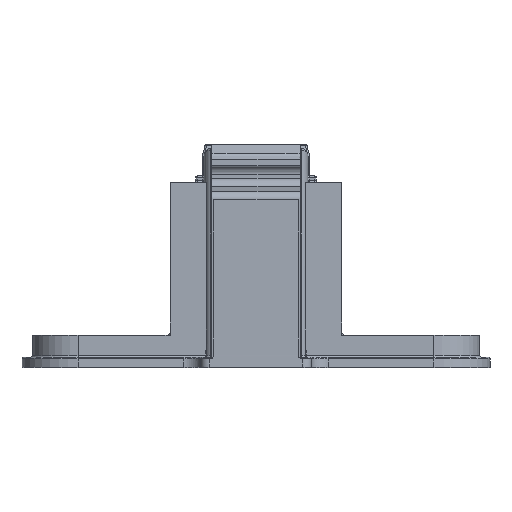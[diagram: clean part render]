
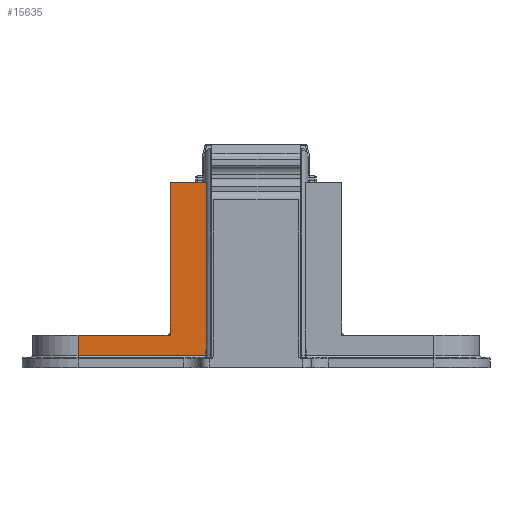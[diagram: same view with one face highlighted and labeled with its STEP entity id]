
A CAD part, top view. The second image highlights one B-rep face of the part: STEP entity #15635.
In plain terms, the highlighted planar face has unit normal (0, 0, 1).
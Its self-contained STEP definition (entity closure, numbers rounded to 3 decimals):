
#116 = CARTESIAN_POINT ( 'NONE',  ( -10.118, 21.8, 39.713 ) ) ;
#413 = FACE_OUTER_BOUND ( 'NONE', #2894, .T. ) ;
#494 = CARTESIAN_POINT ( 'NONE',  ( -5.858, 3.853, 39.714 ) ) ;
#951 = DIRECTION ( 'NONE',  ( 1., 0., 0. ) ) ;
#1085 = VERTEX_POINT ( 'NONE', #1992 ) ;
#1300 = LINE ( 'NONE', #13041, #19187 ) ;
#1319 = ORIENTED_EDGE ( 'NONE', *, *, #13231, .F. ) ;
#1377 = VECTOR ( 'NONE', #10315, 1000. ) ;
#1525 = DIRECTION ( 'NONE',  ( 1., 0., 0. ) ) ;
#1898 = DIRECTION ( 'NONE',  ( 0., -1., 0. ) ) ;
#1992 = CARTESIAN_POINT ( 'NONE',  ( -5.96, 1.393, 39.713 ) ) ;
#2894 = EDGE_LOOP ( 'NONE', ( #1319, #15292, #12294, #16324, #14725, #19077, #14376, #6193 ) ) ;
#3090 = CARTESIAN_POINT ( 'NONE',  ( -5.855, 1.393, 39.713 ) ) ;
#3411 = CARTESIAN_POINT ( 'NONE',  ( -5.859, 3.353, 39.714 ) ) ;
#3502 = CARTESIAN_POINT ( 'NONE',  ( -5.865, 2.823, 39.713 ) ) ;
#4205 = LINE ( 'NONE', #15463, #10226 ) ;
#4215 = AXIS2_PLACEMENT_3D ( 'NONE', #15285, #16920, #12584 ) ;
#4584 = CARTESIAN_POINT ( 'NONE',  ( -5.96, 1.393, 39.713 ) ) ;
#4682 = CARTESIAN_POINT ( 'NONE',  ( -5.876, 2.258, 39.713 ) ) ;
#4960 = CARTESIAN_POINT ( 'NONE',  ( -5.864, 2.951, 39.713 ) ) ;
#5038 = LINE ( 'NONE', #14346, #9033 ) ;
#5494 = EDGE_CURVE ( 'NONE', #5971, #17227, #15306, .T. ) ;
#5805 = VERTEX_POINT ( 'NONE', #116 ) ;
#5823 = EDGE_CURVE ( 'NONE', #10234, #17916, #4205, .T. ) ;
#5971 = VERTEX_POINT ( 'NONE', #6910 ) ;
#6026 = CARTESIAN_POINT ( 'NONE',  ( -5.901, 1.64, 39.713 ) ) ;
#6133 = CARTESIAN_POINT ( 'NONE',  ( -5.865, 2.855, 39.713 ) ) ;
#6193 = ORIENTED_EDGE ( 'NONE', *, *, #13232, .F. ) ;
#6324 = CARTESIAN_POINT ( 'NONE',  ( -5.858, 3.733, 39.715 ) ) ;
#6411 = EDGE_CURVE ( 'NONE', #17916, #10993, #5038, .T. ) ;
#6432 = CARTESIAN_POINT ( 'NONE',  ( -5.861, 3.171, 39.714 ) ) ;
#6910 = CARTESIAN_POINT ( 'NONE',  ( -5.859, 21.8, 39.713 ) ) ;
#7201 = CARTESIAN_POINT ( 'NONE',  ( -5.859, 4.915, 39.713 ) ) ;
#7246 = CARTESIAN_POINT ( 'NONE',  ( -10.118, 3.8, 39.713 ) ) ;
#7610 = CARTESIAN_POINT ( 'NONE',  ( -5.859, 3.46, 39.714 ) ) ;
#7652 = CARTESIAN_POINT ( 'NONE',  ( -5.859, 24., 39.713 ) ) ;
#7809 = CARTESIAN_POINT ( 'NONE',  ( -5.859, 3.913, 39.713 ) ) ;
#7917 = PLANE ( 'NONE',  #4215 ) ;
#8464 = CARTESIAN_POINT ( 'NONE',  ( -10.118, 21.8, 39.713 ) ) ;
#8675 = VECTOR ( 'NONE', #1898, 1000. ) ;
#8905 = VECTOR ( 'NONE', #1525, 1000. ) ;
#9033 = VECTOR ( 'NONE', #951, 1000. ) ;
#10226 = VECTOR ( 'NONE', #16742, 1000. ) ;
#10234 = VERTEX_POINT ( 'NONE', #13923 ) ;
#10315 = DIRECTION ( 'NONE',  ( 1., 0., 0. ) ) ;
#10333 = CARTESIAN_POINT ( 'NONE',  ( -5.859, 5.922, 39.713 ) ) ;
#10923 = CARTESIAN_POINT ( 'NONE',  ( -5.865, 2.838, 39.713 ) ) ;
#10993 = VERTEX_POINT ( 'NONE', #7246 ) ;
#11643 = EDGE_CURVE ( 'NONE', #15911, #1085, #17953, .T. ) ;
#12004 = CARTESIAN_POINT ( 'NONE',  ( -5.924, 1.425, 39.713 ) ) ;
#12294 = ORIENTED_EDGE ( 'NONE', *, *, #5823, .F. ) ;
#12584 = DIRECTION ( 'NONE',  ( 1., 0., 0. ) ) ;
#12654 = CARTESIAN_POINT ( 'NONE',  ( -5.858, 6.928, 39.713 ) ) ;
#13041 = CARTESIAN_POINT ( 'NONE',  ( -10.118, -45.375, 39.713 ) ) ;
#13231 = EDGE_CURVE ( 'NONE', #10993, #5805, #1300, .T. ) ;
#13232 = EDGE_CURVE ( 'NONE', #5805, #5971, #19212, .T. ) ;
#13341 = DIRECTION ( 'NONE',  ( 0., 1., 0. ) ) ;
#13477 = CARTESIAN_POINT ( 'NONE',  ( -5.87, 2.513, 39.713 ) ) ;
#13545 = LINE ( 'NONE', #3090, #8905 ) ;
#13576 = CARTESIAN_POINT ( 'NONE',  ( -5.865, 2.887, 39.713 ) ) ;
#13923 = CARTESIAN_POINT ( 'NONE',  ( -20.949, 1.393, 39.713 ) ) ;
#14346 = CARTESIAN_POINT ( 'NONE',  ( 20.951, 3.8, 39.713 ) ) ;
#14376 = ORIENTED_EDGE ( 'NONE', *, *, #5494, .F. ) ;
#14690 = EDGE_CURVE ( 'NONE', #10234, #1085, #13545, .T. ) ;
#14725 = ORIENTED_EDGE ( 'NONE', *, *, #11643, .F. ) ;
#15057 = CARTESIAN_POINT ( 'NONE',  ( -5.859, 3.913, 39.713 ) ) ;
#15285 = CARTESIAN_POINT ( 'NONE',  ( 20.951, -66.476, 39.713 ) ) ;
#15292 = ORIENTED_EDGE ( 'NONE', *, *, #6411, .F. ) ;
#15306 = LINE ( 'NONE', #7652, #8675 ) ;
#15463 = CARTESIAN_POINT ( 'NONE',  ( -20.949, -66.476, 39.713 ) ) ;
#15635 = ADVANCED_FACE ( 'NONE', ( #413 ), #7917, .T. ) ;
#15840 = CARTESIAN_POINT ( 'NONE',  ( -20.949, 3.8, 39.713 ) ) ;
#15911 = VERTEX_POINT ( 'NONE', #15057 ) ;
#16158 = EDGE_CURVE ( 'NONE', #17227, #15911, #16370, .T. ) ;
#16324 = ORIENTED_EDGE ( 'NONE', *, *, #14690, .T. ) ;
#16370 = B_SPLINE_CURVE_WITH_KNOTS ( 'NONE', 3,
 ( #17972, #10333, #7201, #17679 ),
 .UNSPECIFIED., .F., .F.,
 ( 4, 4 ),
 ( 0., 1. ),
 .UNSPECIFIED. ) ;
#16742 = DIRECTION ( 'NONE',  ( 0., 1., 0. ) ) ;
#16904 = CARTESIAN_POINT ( 'NONE',  ( -5.865, 2.831, 39.713 ) ) ;
#16920 = DIRECTION ( 'NONE',  ( 0., 0., 1. ) ) ;
#17227 = VERTEX_POINT ( 'NONE', #12654 ) ;
#17679 = CARTESIAN_POINT ( 'NONE',  ( -5.859, 3.913, 39.713 ) ) ;
#17916 = VERTEX_POINT ( 'NONE', #15840 ) ;
#17953 = B_SPLINE_CURVE_WITH_KNOTS ( 'NONE', 3,
 ( #7809, #494, #6324, #7610, #3411, #6432, #18379, #4960, #13576, #6133, #10923, #16904, #18001, #3502, #13477, #4682, #6026, #12004, #4584 ),
 .UNSPECIFIED., .F., .F.,
 ( 4, 2, 2, 1, 1, 1, 1, 1, 2, 2, 2, 4 ),
 ( 0., 0.125, 0.187, 0.219, 0.234, 0.242, 0.246, 0.248, 0.249, 0.25, 0.5, 1. ),
 .UNSPECIFIED. ) ;
#17972 = CARTESIAN_POINT ( 'NONE',  ( -5.858, 6.928, 39.713 ) ) ;
#18001 = CARTESIAN_POINT ( 'NONE',  ( -5.865, 2.826, 39.713 ) ) ;
#18379 = CARTESIAN_POINT ( 'NONE',  ( -5.862, 3.074, 39.713 ) ) ;
#19077 = ORIENTED_EDGE ( 'NONE', *, *, #16158, .F. ) ;
#19187 = VECTOR ( 'NONE', #13341, 1000. ) ;
#19212 = LINE ( 'NONE', #8464, #1377 ) ;
